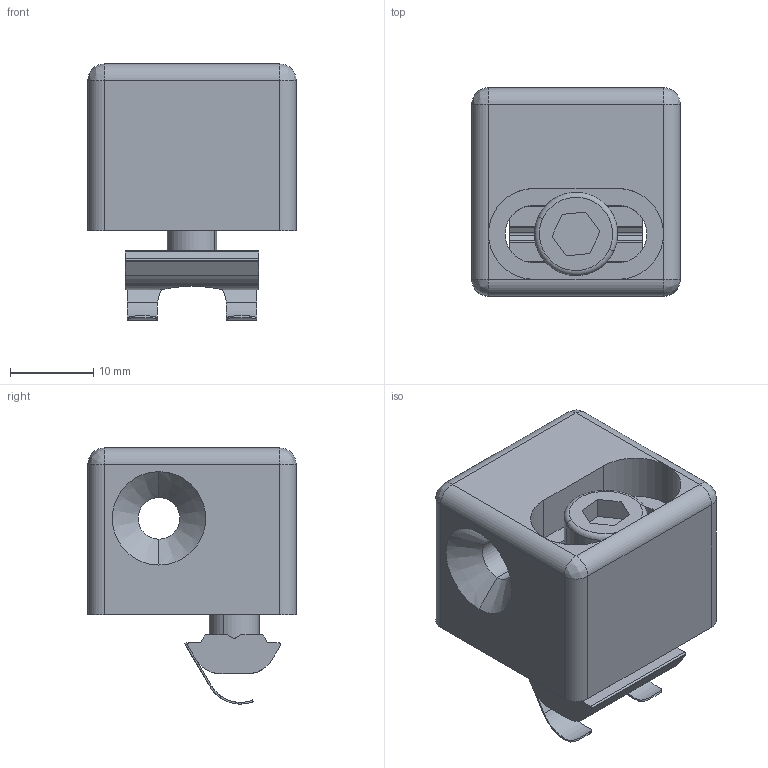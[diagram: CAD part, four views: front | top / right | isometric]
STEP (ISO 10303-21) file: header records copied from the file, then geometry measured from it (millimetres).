
FILE_DESCRIPTION (( 'STEP AP214' ), '1' );
FILE_NAME ('1.3039 Monikiinnike 30.STEP', '2025-09-09T10:47:38', ( '' ), ( '' ), 'SwSTEP 2.0', 'SolidWorks 2025', '' );
FILE_SCHEMA (( 'AUTOMOTIVE_DESIGN' ));
Length unit declared in the file: millimetre
Products named in the file (1): 1.3039 Monikiinnike 30
Bounding box: 25 x 25 x 30.74 mm (x, y, z)
Volume: 10352.5 mm3; surface area: 5502.6 mm2
Topology: 3 solids, 3 shells, 112 faces, 286 edges, 176 vertices
Faces by surface type: plane 52, cylinder 44, cone 8, bspline 4, torus 4
Entity records: 4767 total; most frequent: CARTESIAN_POINT 806, ORIENTED_EDGE 564, DIRECTION 562, EDGE_CURVE 282, AXIS2_PLACEMENT_3D 200, VERTEX_POINT 176, VECTOR 162, LINE 162
